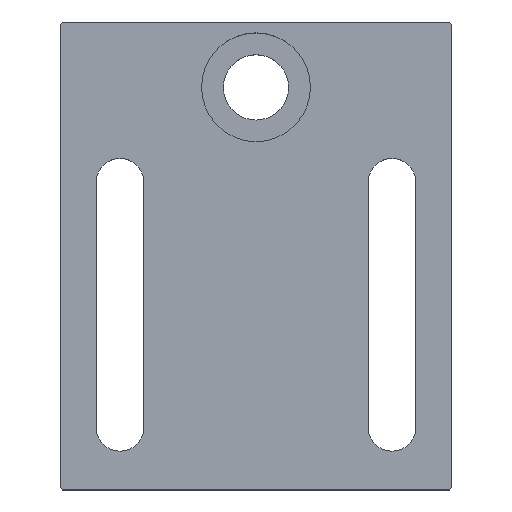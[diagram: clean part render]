
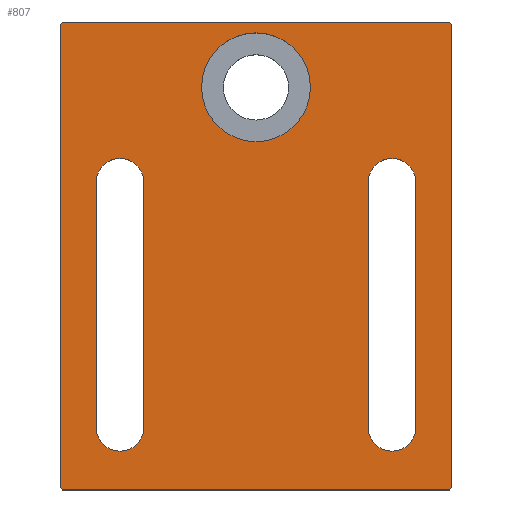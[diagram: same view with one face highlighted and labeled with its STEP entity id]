
A CAD part, top view. The second image highlights one B-rep face of the part: STEP entity #807.
In plain terms, the highlighted planar face has unit normal (0, 0, 1).
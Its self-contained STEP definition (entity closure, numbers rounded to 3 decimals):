
#28=FACE_BOUND('',#119,.T.);
#29=FACE_BOUND('',#120,.T.);
#30=FACE_BOUND('',#121,.T.);
#37=CIRCLE('',#878,2.2);
#38=CIRCLE('',#879,2.2);
#39=CIRCLE('',#880,2.2);
#40=CIRCLE('',#881,2.2);
#41=CIRCLE('',#882,5.);
#73=FACE_OUTER_BOUND('',#118,.T.);
#118=EDGE_LOOP('',(#606,#607,#608,#609,#610,#611,#612,#613));
#119=EDGE_LOOP('',(#614,#615,#616,#617));
#120=EDGE_LOOP('',(#618,#619,#620,#621));
#121=EDGE_LOOP('',(#622));
#163=LINE('',#1175,#257);
#166=LINE('',#1181,#260);
#183=LINE('',#1218,#277);
#189=LINE('',#1230,#283);
#194=LINE('',#1242,#288);
#203=LINE('',#1257,#297);
#204=LINE('',#1259,#298);
#205=LINE('',#1260,#299);
#206=LINE('',#1265,#300);
#207=LINE('',#1268,#301);
#208=LINE('',#1273,#302);
#209=LINE('',#1276,#303);
#257=VECTOR('',#945,10.);
#260=VECTOR('',#950,10.);
#277=VECTOR('',#979,10.);
#283=VECTOR('',#989,10.);
#288=VECTOR('',#998,10.);
#297=VECTOR('',#1015,10.);
#298=VECTOR('',#1018,10.);
#299=VECTOR('',#1019,10.);
#300=VECTOR('',#1022,10.);
#301=VECTOR('',#1025,10.);
#302=VECTOR('',#1028,10.);
#303=VECTOR('',#1031,10.);
#348=VERTEX_POINT('',#1173);
#349=VERTEX_POINT('',#1174);
#350=VERTEX_POINT('',#1179);
#351=VERTEX_POINT('',#1180);
#365=VERTEX_POINT('',#1217);
#369=VERTEX_POINT('',#1229);
#373=VERTEX_POINT('',#1240);
#374=VERTEX_POINT('',#1241);
#377=VERTEX_POINT('',#1261);
#378=VERTEX_POINT('',#1262);
#379=VERTEX_POINT('',#1264);
#380=VERTEX_POINT('',#1266);
#381=VERTEX_POINT('',#1269);
#382=VERTEX_POINT('',#1270);
#383=VERTEX_POINT('',#1272);
#384=VERTEX_POINT('',#1274);
#385=VERTEX_POINT('',#1277);
#423=EDGE_CURVE('',#348,#349,#163,.T.);
#426=EDGE_CURVE('',#350,#351,#166,.T.);
#445=EDGE_CURVE('',#365,#351,#183,.T.);
#451=EDGE_CURVE('',#365,#369,#189,.T.);
#456=EDGE_CURVE('',#373,#374,#194,.T.);
#465=EDGE_CURVE('',#373,#369,#203,.T.);
#466=EDGE_CURVE('',#348,#374,#204,.T.);
#467=EDGE_CURVE('',#350,#349,#205,.T.);
#468=EDGE_CURVE('',#377,#378,#37,.T.);
#469=EDGE_CURVE('',#378,#379,#206,.T.);
#470=EDGE_CURVE('',#379,#380,#38,.T.);
#471=EDGE_CURVE('',#380,#377,#207,.T.);
#472=EDGE_CURVE('',#381,#382,#39,.T.);
#473=EDGE_CURVE('',#382,#383,#208,.T.);
#474=EDGE_CURVE('',#383,#384,#40,.T.);
#475=EDGE_CURVE('',#384,#381,#209,.T.);
#476=EDGE_CURVE('',#385,#385,#41,.T.);
#606=ORIENTED_EDGE('',*,*,#423,.F.);
#607=ORIENTED_EDGE('',*,*,#466,.T.);
#608=ORIENTED_EDGE('',*,*,#456,.F.);
#609=ORIENTED_EDGE('',*,*,#465,.T.);
#610=ORIENTED_EDGE('',*,*,#451,.F.);
#611=ORIENTED_EDGE('',*,*,#445,.T.);
#612=ORIENTED_EDGE('',*,*,#426,.F.);
#613=ORIENTED_EDGE('',*,*,#467,.T.);
#614=ORIENTED_EDGE('',*,*,#468,.T.);
#615=ORIENTED_EDGE('',*,*,#469,.T.);
#616=ORIENTED_EDGE('',*,*,#470,.T.);
#617=ORIENTED_EDGE('',*,*,#471,.T.);
#618=ORIENTED_EDGE('',*,*,#472,.T.);
#619=ORIENTED_EDGE('',*,*,#473,.T.);
#620=ORIENTED_EDGE('',*,*,#474,.T.);
#621=ORIENTED_EDGE('',*,*,#475,.T.);
#622=ORIENTED_EDGE('',*,*,#476,.T.);
#772=PLANE('',#877);
#807=ADVANCED_FACE('',(#73,#28,#29,#30),#772,.T.);
#877=AXIS2_PLACEMENT_3D('',#1258,#1016,#1017);
#878=AXIS2_PLACEMENT_3D('',#1263,#1020,#1021);
#879=AXIS2_PLACEMENT_3D('',#1267,#1023,#1024);
#880=AXIS2_PLACEMENT_3D('',#1271,#1026,#1027);
#881=AXIS2_PLACEMENT_3D('',#1275,#1029,#1030);
#882=AXIS2_PLACEMENT_3D('',#1278,#1032,#1033);
#945=DIRECTION('',(-0.707,-0.707,0.));
#950=DIRECTION('',(-0.707,0.707,0.));
#979=DIRECTION('',(0.,-1.,0.));
#989=DIRECTION('',(0.707,0.707,0.));
#998=DIRECTION('',(0.707,-0.707,0.));
#1015=DIRECTION('',(-1.,0.,0.));
#1016=DIRECTION('center_axis',(0.,0.,1.));
#1017=DIRECTION('ref_axis',(1.,0.,0.));
#1018=DIRECTION('',(0.,1.,0.));
#1019=DIRECTION('',(1.,0.,0.));
#1020=DIRECTION('center_axis',(0.,0.,-1.));
#1021=DIRECTION('ref_axis',(-1.,0.,0.));
#1022=DIRECTION('',(0.,-1.,0.));
#1023=DIRECTION('center_axis',(0.,0.,-1.));
#1024=DIRECTION('ref_axis',(1.,0.,0.));
#1025=DIRECTION('',(0.,1.,0.));
#1026=DIRECTION('center_axis',(0.,0.,-1.));
#1027=DIRECTION('ref_axis',(-1.,0.,0.));
#1028=DIRECTION('',(0.,-1.,0.));
#1029=DIRECTION('center_axis',(0.,0.,-1.));
#1030=DIRECTION('ref_axis',(1.,0.,0.));
#1031=DIRECTION('',(0.,1.,0.));
#1032=DIRECTION('center_axis',(0.,0.,-1.));
#1033=DIRECTION('ref_axis',(-1.,0.,0.));
#1173=CARTESIAN_POINT('',(18.,-29.8,12.));
#1174=CARTESIAN_POINT('',(17.8,-30.,12.));
#1175=CARTESIAN_POINT('',(18.775,-29.025,12.));
#1179=CARTESIAN_POINT('',(-17.8,-30.,12.));
#1180=CARTESIAN_POINT('',(-18.,-29.8,12.));
#1181=CARTESIAN_POINT('',(-18.775,-29.025,12.));
#1217=CARTESIAN_POINT('',(-18.,12.8,12.));
#1218=CARTESIAN_POINT('',(-18.,30.,12.));
#1229=CARTESIAN_POINT('',(-17.8,13.,12.));
#1230=CARTESIAN_POINT('',(-18.775,12.025,12.));
#1240=CARTESIAN_POINT('',(17.8,13.,12.));
#1241=CARTESIAN_POINT('',(18.,12.8,12.));
#1242=CARTESIAN_POINT('',(18.775,12.025,12.));
#1257=CARTESIAN_POINT('',(18.,13.,12.));
#1258=CARTESIAN_POINT('Origin',(0.,-8.5,12.));
#1259=CARTESIAN_POINT('',(18.,-30.,12.));
#1260=CARTESIAN_POINT('',(-18.,-30.,12.));
#1261=CARTESIAN_POINT('',(-14.7,-1.75,12.));
#1262=CARTESIAN_POINT('',(-10.3,-1.75,12.));
#1263=CARTESIAN_POINT('Origin',(-12.5,-1.75,12.));
#1264=CARTESIAN_POINT('',(-10.3,-24.25,12.));
#1265=CARTESIAN_POINT('',(-10.3,-1.75,12.));
#1266=CARTESIAN_POINT('',(-14.7,-24.25,12.));
#1267=CARTESIAN_POINT('Origin',(-12.5,-24.25,12.));
#1268=CARTESIAN_POINT('',(-14.7,-24.25,12.));
#1269=CARTESIAN_POINT('',(10.3,-1.75,12.));
#1270=CARTESIAN_POINT('',(14.7,-1.75,12.));
#1271=CARTESIAN_POINT('Origin',(12.5,-1.75,12.));
#1272=CARTESIAN_POINT('',(14.7,-24.25,12.));
#1273=CARTESIAN_POINT('',(14.7,-1.75,12.));
#1274=CARTESIAN_POINT('',(10.3,-24.25,12.));
#1275=CARTESIAN_POINT('Origin',(12.5,-24.25,12.));
#1276=CARTESIAN_POINT('',(10.3,-24.25,12.));
#1277=CARTESIAN_POINT('',(5.,7.,12.));
#1278=CARTESIAN_POINT('Origin',(0.,7.,12.));
